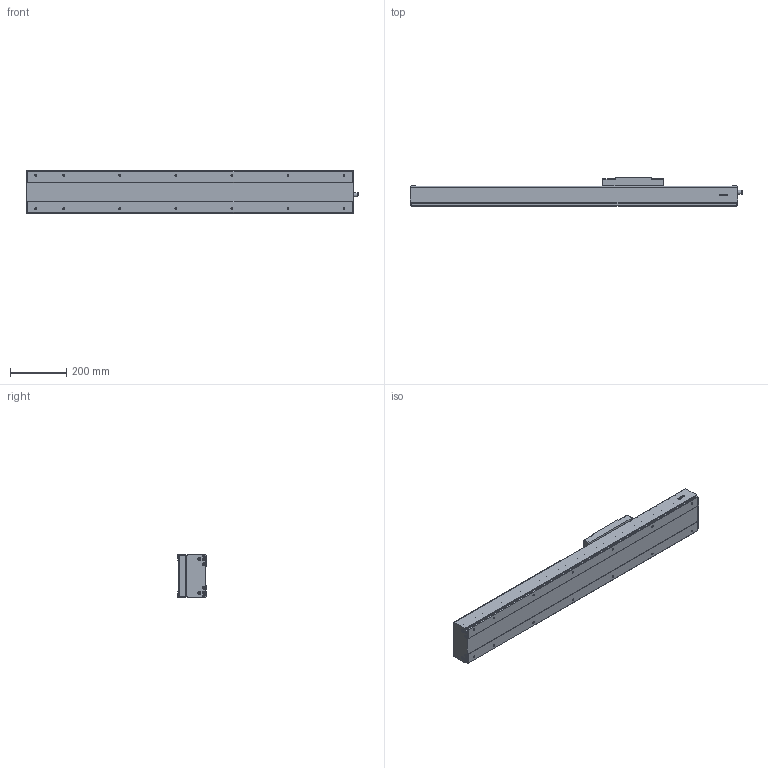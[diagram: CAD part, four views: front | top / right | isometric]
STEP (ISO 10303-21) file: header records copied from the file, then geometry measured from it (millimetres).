
FILE_DESCRIPTION(/* description */ (''),/* implementation_level */ '2;1');
FILE_NAME(/* name */ 'D:\混合母檔20191031\混和母檔\混和母檔\bin\Debug\Download\3D\KS150-10C-650AFI\KS150-10C-650AFI.stp',/* time_stamp */ '2019-11-04T15:48:26+08:00',/* author */ ('user'),/* organization */ (''),/* preprocessor_version */ 'ST-DEVELOPER v16.13',/* originating_system */ 'Autodesk Inventor 2018',/* authorisation */ '');
FILE_SCHEMA (('AUTOMOTIVE_DESIGN { 1 0 10303 214 3 1 1 }'));
Length unit declared in the file: millimetre
Products named in the file (3): KS150-10C-650AFI; KS150-FI; KS150-SL
Assembly tree (2 placements, depth 2):
  KS150-10C-650AFI
    KS150-FI
    KS150-SL
Bounding box: 1185.05 x 100 x 152.4 mm (x, y, z)
Volume: 5010959.7 mm3; surface area: 1188425 mm2
Topology: 4 solids, 8 shells, 1241 faces, 3275 edges, 2124 vertices
Faces by surface type: plane 615, cone 228, cylinder 190, bspline 136, torus 68, sphere 4
Full cylindrical faces by diameter (mm): 3.242 x12, 3.571 x8, 4.134 x4, 4.5 x8, 4.509 x6, 4.917 x4, 5 x18, 5.5 x12, 6 x2, 6.647 x18, 8 x4, 8.4 x8, 9.3 x12, 10.437 x1, 12 x1, 14 x1, 15 x1, 15.538 x1, 23 x1, 46 x1, 50 x1
Entity records: 40968 total; most frequent: CARTESIAN_POINT 12720, ORIENTED_EDGE 5840, DIRECTION 5425, EDGE_CURVE 2920, VERTEX_POINT 2016, AXIS2_PLACEMENT_3D 1880, LINE 1665, VECTOR 1665
